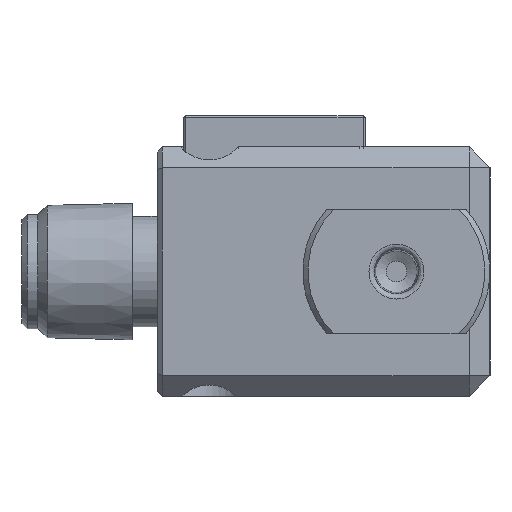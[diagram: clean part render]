
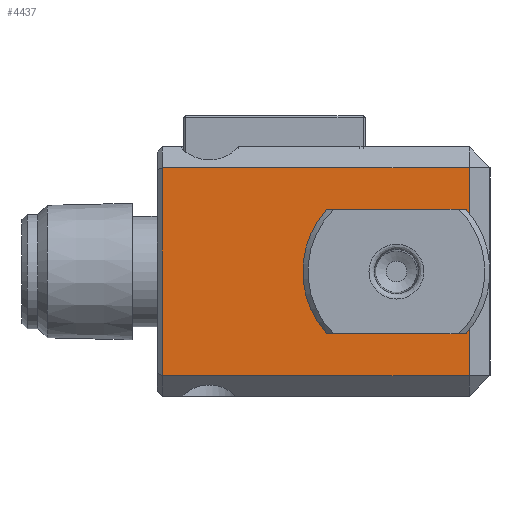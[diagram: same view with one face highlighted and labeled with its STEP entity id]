
A CAD part, left-side view. The second image highlights one B-rep face of the part: STEP entity #4437.
In plain terms, the highlighted planar face has unit normal (-1, 0, 0).
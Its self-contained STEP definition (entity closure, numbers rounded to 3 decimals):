
#13 = CARTESIAN_POINT ( 'NONE',  ( -19.333, -9.203, 59.025 ) ) ;
#34 = EDGE_CURVE ( 'NONE', #2203, #293, #3758, .T. ) ;
#38 = ORIENTED_EDGE ( 'NONE', *, *, #2433, .T. ) ;
#143 = CIRCLE ( 'NONE', #4401, 5.025 ) ;
#248 = CARTESIAN_POINT ( 'NONE',  ( -19.333, 13.297, 64. ) ) ;
#293 = VERTEX_POINT ( 'NONE', #1746 ) ;
#320 = CARTESIAN_POINT ( 'NONE',  ( -19.333, 13.797, 44. ) ) ;
#488 = VECTOR ( 'NONE', #1546, 1000. ) ;
#947 = PLANE ( 'NONE',  #1428 ) ;
#1252 = VERTEX_POINT ( 'NONE', #4517 ) ;
#1314 = VECTOR ( 'NONE', #2598, 1000. ) ;
#1315 = EDGE_CURVE ( 'NONE', #3463, #3463, #143, .T. ) ;
#1428 = AXIS2_PLACEMENT_3D ( 'NONE', #3801, #3423, #4901 ) ;
#1470 = CARTESIAN_POINT ( 'NONE',  ( -19.333, -9.203, 54. ) ) ;
#1502 = ORIENTED_EDGE ( 'NONE', *, *, #1315, .F. ) ;
#1546 = DIRECTION ( 'NONE',  ( 0., 0., 1. ) ) ;
#1580 = CARTESIAN_POINT ( 'NONE',  ( -19.333, -16.203, 44. ) ) ;
#1611 = CARTESIAN_POINT ( 'NONE',  ( -19.333, 13.797, 64. ) ) ;
#1699 = ORIENTED_EDGE ( 'NONE', *, *, #1732, .F. ) ;
#1732 = EDGE_CURVE ( 'NONE', #2839, #1252, #3103, .T. ) ;
#1746 = CARTESIAN_POINT ( 'NONE',  ( -19.333, 13.297, 44. ) ) ;
#1924 = CARTESIAN_POINT ( 'NONE',  ( -19.333, 13.297, 42. ) ) ;
#1991 = EDGE_LOOP ( 'NONE', ( #4905, #3048, #38, #1699 ) ) ;
#2119 = VECTOR ( 'NONE', #2649, 1000. ) ;
#2203 = VERTEX_POINT ( 'NONE', #1580 ) ;
#2211 = LINE ( 'NONE', #2675, #2119 ) ;
#2433 = EDGE_CURVE ( 'NONE', #2203, #1252, #2211, .T. ) ;
#2598 = DIRECTION ( 'NONE',  ( 0., 1., 0. ) ) ;
#2639 = EDGE_CURVE ( 'NONE', #293, #2839, #3436, .T. ) ;
#2649 = DIRECTION ( 'NONE',  ( 0., 0., 1. ) ) ;
#2675 = CARTESIAN_POINT ( 'NONE',  ( -19.333, -16.203, 42. ) ) ;
#2839 = VERTEX_POINT ( 'NONE', #248 ) ;
#3001 = DIRECTION ( 'NONE',  ( -1., 0., 0. ) ) ;
#3048 = ORIENTED_EDGE ( 'NONE', *, *, #34, .F. ) ;
#3103 = LINE ( 'NONE', #1611, #3522 ) ;
#3423 = DIRECTION ( 'NONE',  ( 1., 0., 0. ) ) ;
#3436 = LINE ( 'NONE', #1924, #488 ) ;
#3440 = EDGE_LOOP ( 'NONE', ( #1502 ) ) ;
#3463 = VERTEX_POINT ( 'NONE', #13 ) ;
#3522 = VECTOR ( 'NONE', #4732, 1000. ) ;
#3758 = LINE ( 'NONE', #320, #1314 ) ;
#3801 = CARTESIAN_POINT ( 'NONE',  ( -19.333, 13.797, 42. ) ) ;
#4376 = FACE_OUTER_BOUND ( 'NONE', #1991, .T. ) ;
#4401 = AXIS2_PLACEMENT_3D ( 'NONE', #1470, #3001, #4940 ) ;
#4437 = ADVANCED_FACE ( 'NONE', ( #4376, #4834 ), #947, .F. ) ;
#4517 = CARTESIAN_POINT ( 'NONE',  ( -19.333, -16.203, 64. ) ) ;
#4732 = DIRECTION ( 'NONE',  ( 0., -1., 0. ) ) ;
#4834 = FACE_BOUND ( 'NONE', #3440, .T. ) ;
#4901 = DIRECTION ( 'NONE',  ( 0., 0., -1. ) ) ;
#4905 = ORIENTED_EDGE ( 'NONE', *, *, #2639, .F. ) ;
#4940 = DIRECTION ( 'NONE',  ( 0., 0., 1. ) ) ;
